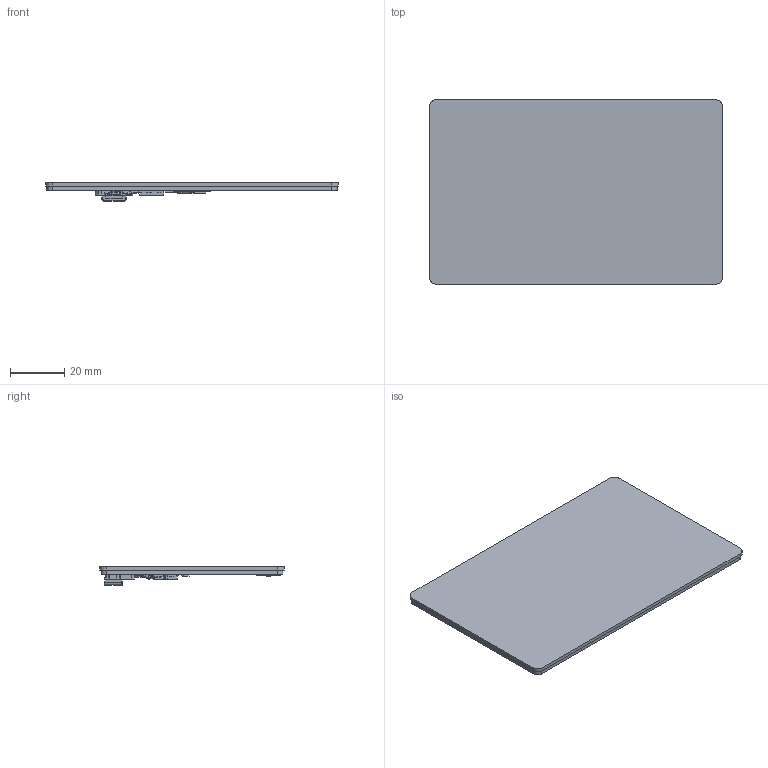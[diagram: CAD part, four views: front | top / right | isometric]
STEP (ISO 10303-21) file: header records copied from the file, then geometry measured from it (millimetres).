
FILE_DESCRIPTION (( 'STEP AP214' ), '1' );
FILE_NAME ('pxm0057_401.STEP', '2022-05-17T13:01:28', ( '' ), ( '' ), 'SwSTEP 2.0', 'SolidWorks 2021', '' );
FILE_SCHEMA (( 'AUTOMOTIVE_DESIGN' ));
Length unit declared in the file: millimetre
Products named in the file (1): pxm0057_401
Bounding box: 108.3 x 68.3 x 6.95 mm (x, y, z)
Volume: 22658.3 mm3; surface area: 18216.5 mm2
Topology: 85 solids, 85 shells, 1153 faces, 2855 edges, 1881 vertices
Faces by surface type: plane 856, cylinder 251, sphere 18, torus 17, bspline 11
Entity records: 50702 total; most frequent: CARTESIAN_POINT 14871, ORIENTED_EDGE 5710, EDGE_CURVE 2855, DIRECTION 2654, B_SPLINE_CURVE_WITH_KNOTS 2546, VERTEX_POINT 1881, UNCERTAINTY_MEASURE_WITH_UNIT 1240, COLOUR_RGB 1239
